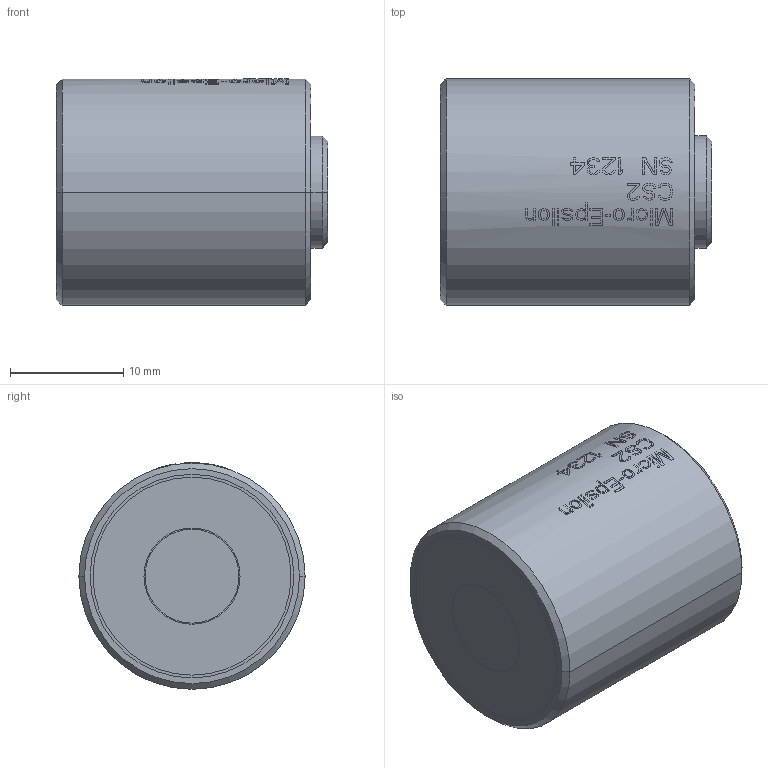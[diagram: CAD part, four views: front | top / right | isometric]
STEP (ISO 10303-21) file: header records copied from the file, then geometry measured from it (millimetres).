
FILE_DESCRIPTION((''),'2;1');
FILE_NAME('CS2','2009-07-30T',('11000065'),(''),'PRO/ENGINEER BY PARAMETRIC TECHNOLOGY CORPORATION, 2008490','PRO/ENGINEER BY PARAMETRIC TECHNOLOGY CORPORATION, 2008490','');
FILE_SCHEMA(('AUTOMOTIVE_DESIGN { 1 2 10303 214 0 1 1 1 }'));
Length unit declared in the file: millimetre
Products named in the file (1): CS2
Bounding box: 24.02 x 20 x 20.02 mm (x, y, z)
Volume: 6921.2 mm3; surface area: 2268 mm2
Topology: 1 solids, 1 shells, 661 faces, 1857 edges, 1236 vertices
Faces by surface type: plane 605, cylinder 50, cone 6
Entity records: 27099 total; most frequent: CARTESIAN_POINT 5384, ORIENTED_EDGE 3714, DIRECTION 2585, PRESENTATION_STYLE_ASSIGNMENT 1893, STYLED_ITEM 1860, CURVE_STYLE 1857, EDGE_CURVE 1857, VERTEX_POINT 1236
